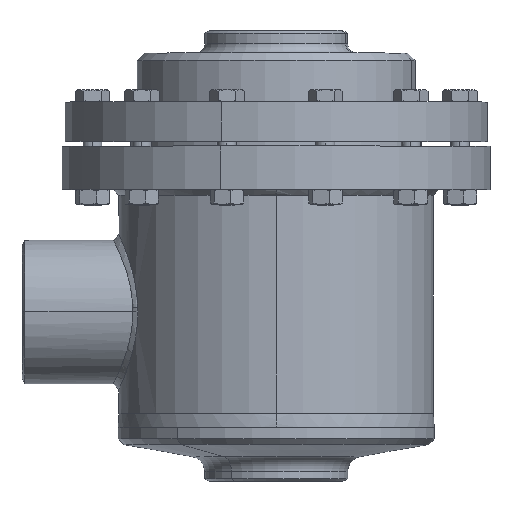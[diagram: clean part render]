
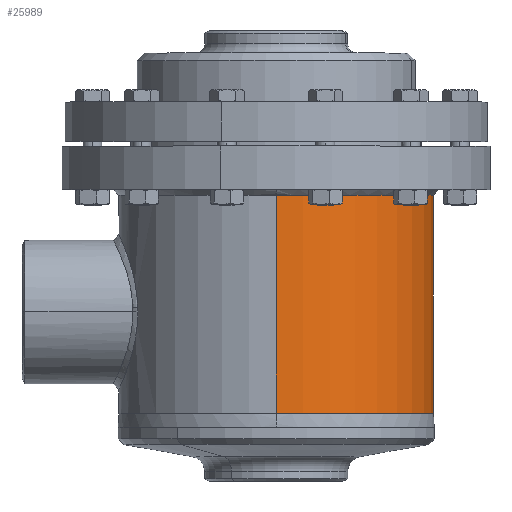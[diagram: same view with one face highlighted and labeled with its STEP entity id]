
A CAD part, top view. The second image highlights one B-rep face of the part: STEP entity #25989.
In plain terms, the highlighted cylindrical face has radius 83.5 mm (diameter 167 mm), a partial arc.
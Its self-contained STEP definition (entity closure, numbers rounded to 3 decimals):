
#203 = ORIENTED_EDGE ( 'NONE', *, *, #25969, .T. ) ;
#17029 = LINE ( 'NONE', #17030, #17031 ) ;
#17030 = CARTESIAN_POINT ( 'NONE',  ( 0., 45.442, 83.5 ) ) ;
#17031 = VECTOR ( 'NONE', #17032, 1000. ) ;
#17032 = DIRECTION ( 'NONE',  ( 0., 1., 0. ) ) ;
#733 = VERTEX_POINT ( 'NONE', #5578 ) ;
#979 = VERTEX_POINT ( 'NONE', #5754 ) ;
#1214 = EDGE_CURVE ( 'NONE', #979, #733, #6063, .T. ) ;
#1599 = ORIENTED_EDGE ( 'NONE', *, *, #1214, .T. ) ;
#1766 = CARTESIAN_POINT ( 'NONE',  ( 0., 61.932, -83.5 ) ) ;
#18762 = CARTESIAN_POINT ( 'NONE',  ( 0., 61.932, 83.5 ) ) ;
#21359 = CIRCLE ( 'NONE', #21360, 83.5 ) ;
#21360 = AXIS2_PLACEMENT_3D ( 'NONE', #21361, #21362, #21370 ) ;
#21361 = CARTESIAN_POINT ( 'NONE',  ( 0., 61.932, 0. ) ) ;
#21362 = DIRECTION ( 'NONE',  ( 0., 1., 0. ) ) ;
#21370 = DIRECTION ( 'NONE',  ( 0., 0., 1. ) ) ;
#5578 = CARTESIAN_POINT ( 'NONE',  ( 0., -56.922, -83.5 ) ) ;
#5754 = CARTESIAN_POINT ( 'NONE',  ( 0., -56.922, 83.5 ) ) ;
#6063 = CIRCLE ( 'NONE', #6064, 83.5 ) ;
#6064 = AXIS2_PLACEMENT_3D ( 'NONE', #6065, #6066, #6067 ) ;
#6065 = CARTESIAN_POINT ( 'NONE',  ( 0., -56.922, 0. ) ) ;
#6066 = DIRECTION ( 'NONE',  ( 0., 1., 0. ) ) ;
#6067 = DIRECTION ( 'NONE',  ( 0., 0., 1. ) ) ;
#22714 = EDGE_CURVE ( 'NONE', #979, #23623, #17029, .T. ) ;
#23094 = ORIENTED_EDGE ( 'NONE', *, *, #22714, .F. ) ;
#23623 = VERTEX_POINT ( 'NONE', #18762 ) ;
#23845 = EDGE_CURVE ( 'NONE', #23623, #24748, #21359, .T. ) ;
#24223 = ORIENTED_EDGE ( 'NONE', *, *, #23845, .F. ) ;
#24748 = VERTEX_POINT ( 'NONE', #1766 ) ;
#25738 = EDGE_LOOP ( 'NONE', ( #1599, #203, #24223, #23094 ) ) ;
#25969 = EDGE_CURVE ( 'NONE', #733, #24748, #15229, .T. ) ;
#25989 = ADVANCED_FACE ( 'NONE', ( #15256 ), #15257, .T. ) ;
#15229 = LINE ( 'NONE', #15230, #15231 ) ;
#15230 = CARTESIAN_POINT ( 'NONE',  ( 0., 45.442, -83.5 ) ) ;
#15231 = VECTOR ( 'NONE', #15232, 1000. ) ;
#15232 = DIRECTION ( 'NONE',  ( 0., 1., 0. ) ) ;
#15256 = FACE_OUTER_BOUND ( 'NONE', #25738, .T. ) ;
#15257 = CYLINDRICAL_SURFACE ( 'NONE', #15258, 83.5 ) ;
#15258 = AXIS2_PLACEMENT_3D ( 'NONE', #15259, #15260, #15261 ) ;
#15259 = CARTESIAN_POINT ( 'NONE',  ( 0., 45.442, 0. ) ) ;
#15260 = DIRECTION ( 'NONE',  ( 0., 1., 0. ) ) ;
#15261 = DIRECTION ( 'NONE',  ( 0., 0., 1. ) ) ;
